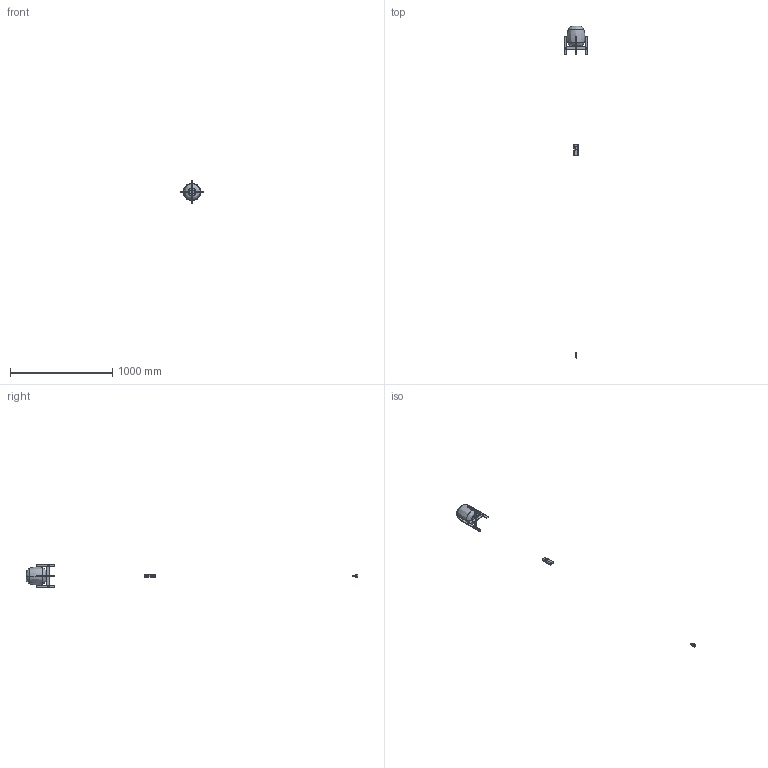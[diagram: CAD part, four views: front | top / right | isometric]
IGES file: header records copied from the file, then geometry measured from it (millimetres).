
Start section: SolidWorks IGES file using analytic representation for surfaces
Global section: file name: C:\Users\bernat.bisbal\Desktop\Cestita_Metalica_3D.IGS; native system: SolidWorks 2015; preprocessor: SolidWorks 2015; author: bernat.bisbal; date: 160901.155858; units: millimetre
Bounding box: 230 x 3245.25 x 230 mm (x, y, z)
Surface area: 208971.5 mm2 (no closed solid volume)
Topology: 0 solids, 0 shells, 160 faces, 3639 edges, 3638 vertices
Faces by surface type: bspline 126, revolution 34
